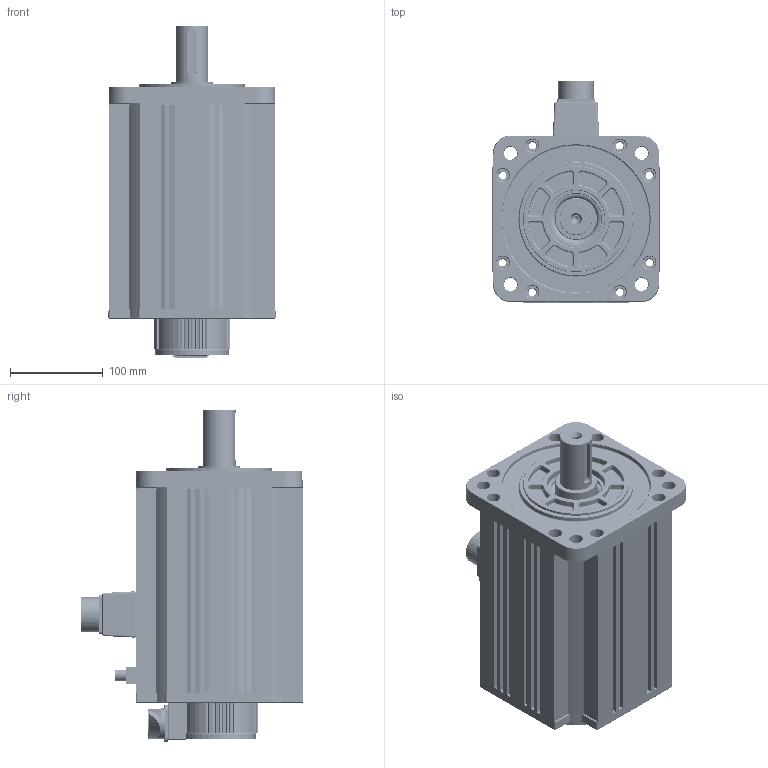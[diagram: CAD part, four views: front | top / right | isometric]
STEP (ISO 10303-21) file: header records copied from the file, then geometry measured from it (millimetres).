
FILE_DESCRIPTION (( 'STEP AP203' ), '1' );
FILE_NAME ('180zf1500r4kwbz.STEP', '2024-10-23T06:12:56', ( 'MicroSoft' ), ( 'MicroSoft' ), 'SwSTEP 2.0', 'SolidWorks 2020', '' );
FILE_SCHEMA (( 'CONFIG_CONTROL_DESIGN' ));
Length unit declared in the file: millimetre
Products named in the file (27): ____1.62^煦极DR-M35H(3)_Z180-01(180侜督萇儂); PCB__2^煦极DR-M35H(3)_Z180-01(180侜督萇儂); 180伺服电机全系类BLC制动转子轴_3KW; __2^煦极DR-M35H(3)_Z180-01(180侜督萇儂); ______2^煦极DR-M35H(3)_Z180-01(180侜督萇儂); 180前端盖确定版(1)X; 180陔癹弇釱(1); Z130A-01-03(编码器后罩壳封盖）; M2____^煦极DR-M35H(3)_Z180-01(180侜督萇儂); ____^煦极DR-M35H(3)_Z180-01(180侜督萇儂); GB╱T 276-2013[两面带密封圈（非接触式）的深沟球轴承[60000-2RZ]6206-2RZ]_6206-2RZ; H12秶雄ん菁釱; Z180-01-16(堤盄碟); 编码器连接圈; 180ヶ粣創; 180陔癹弇釱躇猾菜2(1); Z航插15芯（公头电机端）28; 180呿蹋晤鎢ん欶褲; ______________^煦极DR-M35H(3)_Z180-01(180侜督萇儂); 180zf1500r4kwbz; Z180-01-04(180-5.5bk儂褲)_4KW; M2____2^煦极DR-M35H(3)_Z180-01(180侜督萇儂); 秶雄ん菜遴; 180綴傷裔X 蜊(1); 180-4郋萇埭; 煦极DR-M35H(3)^Z180-01(180侜督萇儂); Z130A-01-02(编码器后罩壳）
Assembly tree (33 placements, depth 3):
  180zf1500r4kwbz
    180ヶ粣創
    180前端盖确定版(1)X
    180綴傷裔X 蜊(1)
    180呿蹋晤鎢ん欶褲
      Z130A-01-02(编码器后罩壳）
    Z航插15芯（公头电机端）28
    Z130A-01-03(编码器后罩壳封盖）
    Z180-01-04(180-5.5bk儂褲)_4KW
    Z180-01-16(堤盄碟)
    180-4郋萇埭
    H12秶雄ん菁釱
    秶雄ん菜遴
    180陔癹弇釱(1)
    180陔癹弇釱躇猾菜2(1)
    煦极DR-M35H(3)^Z180-01(180侜督萇儂)
      __2^煦极DR-M35H(3)_Z180-01(180侜督萇儂)
      PCB__2^煦极DR-M35H(3)_Z180-01(180侜督萇儂)
      ____1.62^煦极DR-M35H(3)_Z180-01(180侜督萇儂)  x5
      M2____2^煦极DR-M35H(3)_Z180-01(180侜督萇儂)  x3
      ______________^煦极DR-M35H(3)_Z180-01(180侜督萇儂)
      ______2^煦极DR-M35H(3)_Z180-01(180侜督萇儂)
      ____^煦极DR-M35H(3)_Z180-01(180侜督萇儂)
      M2____^煦极DR-M35H(3)_Z180-01(180侜督萇儂)  x2
    180伺服电机全系类BLC制动转子轴_3KW
    编码器连接圈
    GB╱T 276-2013[两面带密封圈（非接触式）的深沟球轴承[60000-2RZ]6206-2RZ]_6206-2RZ
Bounding box: 180.33 x 239.17 x 358 mm (x, y, z)
Volume: 2524097.2 mm3; surface area: 771535.4 mm2
Topology: 46 solids, 46 shells, 4070 faces, 9842 edges, 5887 vertices
Faces by surface type: cylinder 1316, plane 941, bspline 678, torus 560, cone 333, sphere 242
Entity records: 147636 total; most frequent: CARTESIAN_POINT 56773, DIRECTION 18499, ORIENTED_EDGE 18462, EDGE_CURVE 9231, AXIS2_PLACEMENT_3D 7666, VERTEX_POINT 5592, EDGE_LOOP 4383, CIRCLE 4362
